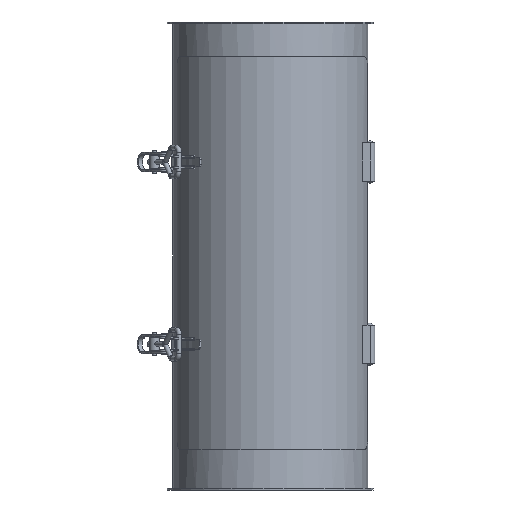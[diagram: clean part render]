
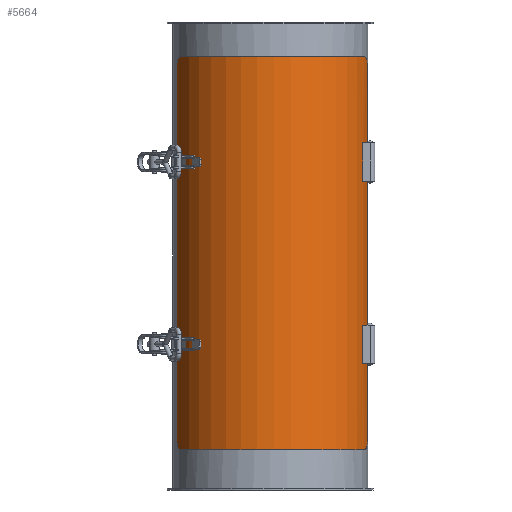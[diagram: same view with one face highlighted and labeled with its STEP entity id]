
A CAD part, front view. The second image highlights one B-rep face of the part: STEP entity #5664.
In plain terms, the highlighted cylindrical face has radius 103.5 mm (diameter 207 mm), a partial arc.
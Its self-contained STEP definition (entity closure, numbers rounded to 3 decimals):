
#5450=CARTESIAN_POINT('',(30.088,2.525,190.073));
#5451=VERTEX_POINT('',#5450);
#5458=CARTESIAN_POINT('',(38.187,12.525,184.188));
#5459=VERTEX_POINT('',#5458);
#5460=CARTESIAN_POINT('',(30.088,2.525,190.073));
#5461=CARTESIAN_POINT('',(30.088,3.78,190.073));
#5462=CARTESIAN_POINT('',(30.299,5.12,189.936));
#5463=CARTESIAN_POINT('',(31.148,7.584,189.371));
#5464=CARTESIAN_POINT('',(31.787,8.708,188.941));
#5465=CARTESIAN_POINT('',(33.246,10.485,187.925));
#5466=CARTESIAN_POINT('',(34.164,11.255,187.27));
#5467=CARTESIAN_POINT('',(36.144,12.275,185.796));
#5468=CARTESIAN_POINT('',(37.207,12.525,184.975));
#5469=CARTESIAN_POINT('',(38.187,12.525,184.188));
#5470=B_SPLINE_CURVE_WITH_KNOTS('',3,(#5460,#5461,#5462,#5463,#5464,#5465,#5466,#5467,#5468,#5469),.UNSPECIFIED.,.F.,.U.,(4,2,2,2,4),(3.023,3.399,3.776,4.154,4.531),.UNSPECIFIED.);
#5471=EDGE_CURVE('',#5451,#5459,#5470,.T.);
#5488=CARTESIAN_POINT('',(-16.634,12.525,0.484));
#5489=VERTEX_POINT('',#5488);
#5490=CARTESIAN_POINT('',(-26.634,12.525,103.5));
#5491=DIRECTION('',(0.0,-1.0,0.0));
#5492=DIRECTION('',(0.0,0.0,-1.0));
#5493=AXIS2_PLACEMENT_3D('',#5490,#5491,#5492);
#5494=CIRCLE('',#5493,103.5);
#5495=EDGE_CURVE('',#5489,#5459,#5494,.T.);
#5515=CARTESIAN_POINT('',(-26.634,-397.475,103.5));
#5516=DIRECTION('',(0.,-1.0,0.0));
#5517=DIRECTION('',(0.548,0.0,0.836));
#5518=AXIS2_PLACEMENT_3D('',#5515,#5516,#5517);
#5519=CYLINDRICAL_SURFACE('',#5518,103.5);
#5520=ORIENTED_EDGE('',*,*,#5471,.F.);
#5521=CARTESIAN_POINT('',(30.088,-387.475,190.073));
#5522=VERTEX_POINT('',#5521);
#5523=CARTESIAN_POINT('',(30.088,2.525,190.073));
#5524=DIRECTION('',(0.0,-1.0,0.0));
#5525=VECTOR('',#5524,390.);
#5526=LINE('',#5523,#5525);
#5527=EDGE_CURVE('',#5451,#5522,#5526,.T.);
#5528=ORIENTED_EDGE('',*,*,#5527,.T.);
#5529=CARTESIAN_POINT('',(38.187,-397.475,184.188));
#5530=VERTEX_POINT('',#5529);
#5531=CARTESIAN_POINT('',(38.187,-397.475,184.188));
#5532=CARTESIAN_POINT('',(37.207,-397.475,184.975));
#5533=CARTESIAN_POINT('',(36.144,-397.226,185.796));
#5534=CARTESIAN_POINT('',(34.164,-396.206,187.27));
#5535=CARTESIAN_POINT('',(33.246,-395.436,187.925));
#5536=CARTESIAN_POINT('',(31.787,-393.659,188.941));
#5537=CARTESIAN_POINT('',(31.148,-392.534,189.371));
#5538=CARTESIAN_POINT('',(30.299,-390.07,189.936));
#5539=CARTESIAN_POINT('',(30.088,-388.731,190.073));
#5540=CARTESIAN_POINT('',(30.088,-387.475,190.073));
#5541=B_SPLINE_CURVE_WITH_KNOTS('',3,(#5531,#5532,#5533,#5534,#5535,#5536,#5537,#5538,#5539,#5540),.UNSPECIFIED.,.F.,.U.,(4,2,2,2,4),(1.514,1.892,2.269,2.646,3.023),.UNSPECIFIED.);
#5542=EDGE_CURVE('',#5530,#5522,#5541,.T.);
#5543=ORIENTED_EDGE('',*,*,#5542,.F.);
#5544=CARTESIAN_POINT('',(-16.634,-397.475,0.484));
#5545=VERTEX_POINT('',#5544);
#5546=CARTESIAN_POINT('',(-26.634,-397.475,103.5));
#5547=DIRECTION('',(0.0,1.0,0.0));
#5548=DIRECTION('',(0.548,0.0,0.836));
#5549=AXIS2_PLACEMENT_3D('',#5546,#5547,#5548);
#5550=CIRCLE('',#5549,103.5);
#5551=EDGE_CURVE('',#5530,#5545,#5550,.T.);
#5552=ORIENTED_EDGE('',*,*,#5551,.T.);
#5553=CARTESIAN_POINT('',(-26.634,-387.475,0.0));
#5554=VERTEX_POINT('',#5553);
#5555=CARTESIAN_POINT('',(-26.634,-387.475,0.));
#5556=CARTESIAN_POINT('',(-26.634,-388.731,0.));
#5557=CARTESIAN_POINT('',(-26.383,-390.07,-0.001));
#5558=CARTESIAN_POINT('',(-25.362,-392.534,0.007));
#5559=CARTESIAN_POINT('',(-24.592,-393.659,0.016));
#5560=CARTESIAN_POINT('',(-22.815,-395.436,0.067));
#5561=CARTESIAN_POINT('',(-21.689,-396.206,0.111));
#5562=CARTESIAN_POINT('',(-19.224,-397.226,0.258));
#5563=CARTESIAN_POINT('',(-17.886,-397.475,0.363));
#5564=CARTESIAN_POINT('',(-16.634,-397.475,0.484));
#5565=B_SPLINE_CURVE_WITH_KNOTS('',3,(#5555,#5556,#5557,#5558,#5559,#5560,#5561,#5562,#5563,#5564),.UNSPECIFIED.,.F.,.U.,(4,2,2,2,4),(6.045,6.422,6.799,7.176,7.554),.UNSPECIFIED.);
#5566=EDGE_CURVE('',#5554,#5545,#5565,.T.);
#5567=ORIENTED_EDGE('',*,*,#5566,.F.);
#5568=CARTESIAN_POINT('',(-26.634,2.525,0.0));
#5569=VERTEX_POINT('',#5568);
#5570=CARTESIAN_POINT('',(-26.634,-387.475,0.0));
#5571=DIRECTION('',(0.0,1.0,0.0));
#5572=VECTOR('',#5571,390.0);
#5573=LINE('',#5570,#5572);
#5574=EDGE_CURVE('',#5554,#5569,#5573,.T.);
#5575=ORIENTED_EDGE('',*,*,#5574,.T.);
#5576=CARTESIAN_POINT('',(-16.634,12.525,0.484));
#5577=CARTESIAN_POINT('',(-17.886,12.525,0.363));
#5578=CARTESIAN_POINT('',(-19.224,12.275,0.258));
#5579=CARTESIAN_POINT('',(-21.689,11.255,0.111));
#5580=CARTESIAN_POINT('',(-22.815,10.485,0.067));
#5581=CARTESIAN_POINT('',(-24.592,8.708,0.016));
#5582=CARTESIAN_POINT('',(-25.362,7.584,0.007));
#5583=CARTESIAN_POINT('',(-26.383,5.12,-0.001));
#5584=CARTESIAN_POINT('',(-26.634,3.78,0.));
#5585=CARTESIAN_POINT('',(-26.634,2.525,0.));
#5586=B_SPLINE_CURVE_WITH_KNOTS('',3,(#5576,#5577,#5578,#5579,#5580,#5581,#5582,#5583,#5584,#5585),.UNSPECIFIED.,.F.,.U.,(4,2,2,2,4),(4.537,4.915,5.292,5.669,6.045),.UNSPECIFIED.);
#5587=EDGE_CURVE('',#5489,#5569,#5586,.T.);
#5588=ORIENTED_EDGE('',*,*,#5587,.F.);
#5589=ORIENTED_EDGE('',*,*,#5495,.T.);
#5590=EDGE_LOOP('',(#5520,#5528,#5543,#5552,#5567,#5575,#5588,#5589));
#5591=FACE_OUTER_BOUND('',#5590,.T.);
#5592=CARTESIAN_POINT('',(42.013,-77.475,180.959));
#5593=VERTEX_POINT('',#5592);
#5594=CARTESIAN_POINT('',(42.013,-117.475,180.959));
#5595=VERTEX_POINT('',#5594);
#5596=CARTESIAN_POINT('',(42.013,-77.475,180.959));
#5597=DIRECTION('',(0.0,-1.0,0.0));
#5598=VECTOR('',#5597,40.);
#5599=LINE('',#5596,#5598);
#5600=EDGE_CURVE('',#5593,#5595,#5599,.T.);
#5601=ORIENTED_EDGE('',*,*,#5600,.T.);
#5602=CARTESIAN_POINT('',(38.187,-117.475,184.188));
#5603=VERTEX_POINT('',#5602);
#5604=CARTESIAN_POINT('',(-26.634,-117.475,103.5));
#5605=DIRECTION('',(0.0,-1.0,0.0));
#5606=DIRECTION('',(0.548,0.0,0.836));
#5607=AXIS2_PLACEMENT_3D('',#5604,#5605,#5606);
#5608=CIRCLE('',#5607,103.5);
#5609=EDGE_CURVE('',#5595,#5603,#5608,.T.);
#5610=ORIENTED_EDGE('',*,*,#5609,.T.);
#5611=CARTESIAN_POINT('',(38.187,-77.475,184.188));
#5612=VERTEX_POINT('',#5611);
#5613=CARTESIAN_POINT('',(38.187,-117.475,184.188));
#5614=DIRECTION('',(0.0,1.0,0.0));
#5615=VECTOR('',#5614,40.);
#5616=LINE('',#5613,#5615);
#5617=EDGE_CURVE('',#5603,#5612,#5616,.T.);
#5618=ORIENTED_EDGE('',*,*,#5617,.T.);
#5619=CARTESIAN_POINT('',(-26.634,-77.475,103.5));
#5620=DIRECTION('',(0.0,1.0,0.0));
#5621=DIRECTION('',(0.548,0.0,0.836));
#5622=AXIS2_PLACEMENT_3D('',#5619,#5620,#5621);
#5623=CIRCLE('',#5622,103.5);
#5624=EDGE_CURVE('',#5612,#5593,#5623,.T.);
#5625=ORIENTED_EDGE('',*,*,#5624,.T.);
#5626=EDGE_LOOP('',(#5601,#5610,#5618,#5625));
#5627=FACE_BOUND('',#5626,.T.);
#5628=CARTESIAN_POINT('',(42.013,-267.475,180.959));
#5629=VERTEX_POINT('',#5628);
#5630=CARTESIAN_POINT('',(42.013,-307.475,180.959));
#5631=VERTEX_POINT('',#5630);
#5632=CARTESIAN_POINT('',(42.013,-267.475,180.959));
#5633=DIRECTION('',(0.0,-1.0,0.0));
#5634=VECTOR('',#5633,40.);
#5635=LINE('',#5632,#5634);
#5636=EDGE_CURVE('',#5629,#5631,#5635,.T.);
#5637=ORIENTED_EDGE('',*,*,#5636,.T.);
#5638=CARTESIAN_POINT('',(38.187,-307.475,184.188));
#5639=VERTEX_POINT('',#5638);
#5640=CARTESIAN_POINT('',(-26.634,-307.475,103.5));
#5641=DIRECTION('',(0.0,-1.0,0.0));
#5642=DIRECTION('',(0.548,0.0,0.836));
#5643=AXIS2_PLACEMENT_3D('',#5640,#5641,#5642);
#5644=CIRCLE('',#5643,103.5);
#5645=EDGE_CURVE('',#5631,#5639,#5644,.T.);
#5646=ORIENTED_EDGE('',*,*,#5645,.T.);
#5647=CARTESIAN_POINT('',(38.187,-267.475,184.188));
#5648=VERTEX_POINT('',#5647);
#5649=CARTESIAN_POINT('',(38.187,-307.475,184.188));
#5650=DIRECTION('',(0.0,1.0,0.0));
#5651=VECTOR('',#5650,40.);
#5652=LINE('',#5649,#5651);
#5653=EDGE_CURVE('',#5639,#5648,#5652,.T.);
#5654=ORIENTED_EDGE('',*,*,#5653,.T.);
#5655=CARTESIAN_POINT('',(-26.634,-267.475,103.5));
#5656=DIRECTION('',(0.0,1.0,0.0));
#5657=DIRECTION('',(0.548,0.0,0.836));
#5658=AXIS2_PLACEMENT_3D('',#5655,#5656,#5657);
#5659=CIRCLE('',#5658,103.5);
#5660=EDGE_CURVE('',#5648,#5629,#5659,.T.);
#5661=ORIENTED_EDGE('',*,*,#5660,.T.);
#5662=EDGE_LOOP('',(#5637,#5646,#5654,#5661));
#5663=FACE_BOUND('',#5662,.T.);
#5664=ADVANCED_FACE('',(#5591,#5627,#5663),#5519,.T.);
